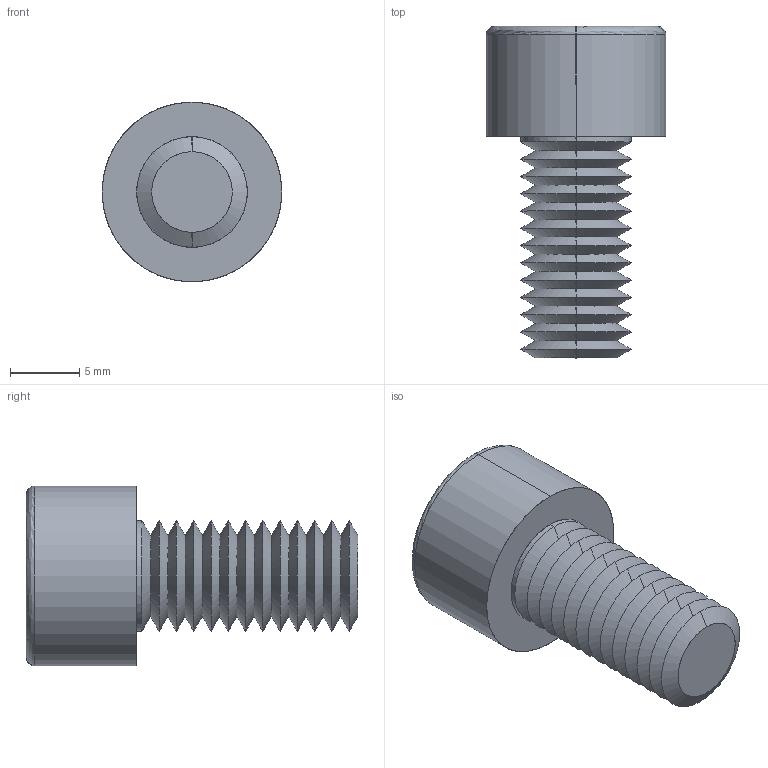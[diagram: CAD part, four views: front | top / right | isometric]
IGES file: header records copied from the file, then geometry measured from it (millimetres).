
Start section: SolidWorks IGES file using analytic representation for surfaces
Global section: file name: C:\Users\ianosborn\Desktop\N0007.91N_v2\N0007.91N_v2_20250519_IGES\91N.080.0160.igs; native system: SolidWorks 2019; preprocessor: SolidWorks 2019; author: IanOsborn; date: 250520.095352; units: millimetre
Bounding box: 13 x 24 x 13 mm (x, y, z)
Surface area: 1373.7 mm2 (no closed solid volume)
Topology: 0 solids, 0 shells, 80 faces, 517 edges, 515 vertices
Faces by surface type: revolution 63, bspline 17
